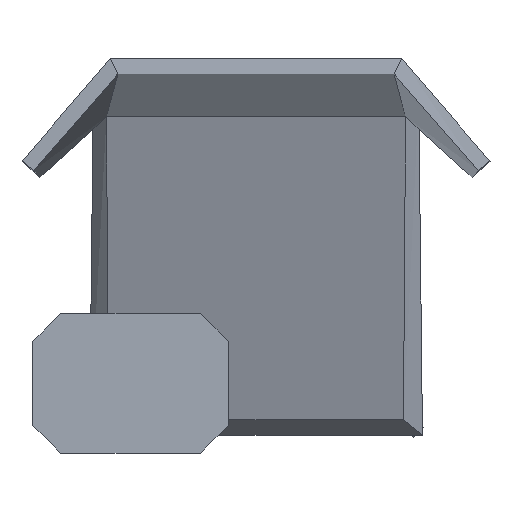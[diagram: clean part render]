
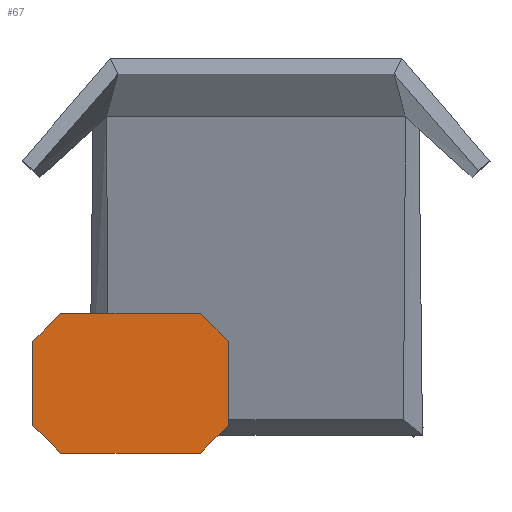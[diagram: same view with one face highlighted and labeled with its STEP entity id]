
A CAD part, top view. The second image highlights one B-rep face of the part: STEP entity #67.
In plain terms, the highlighted planar face has unit normal (0, 0, 1).
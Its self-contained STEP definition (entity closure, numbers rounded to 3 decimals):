
#67=ADVANCED_FACE('',(#199),#1876,.T.);
#199=FACE_OUTER_BOUND('',#331,.T.);
#331=EDGE_LOOP('',(#519,#520,#521,#522,#523,#524,#525,#526));
#519=ORIENTED_EDGE('',*,*,#1049,.T.);
#520=ORIENTED_EDGE('',*,*,#1050,.T.);
#521=ORIENTED_EDGE('',*,*,#1051,.T.);
#522=ORIENTED_EDGE('',*,*,#1052,.T.);
#523=ORIENTED_EDGE('',*,*,#1053,.T.);
#524=ORIENTED_EDGE('',*,*,#1054,.T.);
#525=ORIENTED_EDGE('',*,*,#1055,.T.);
#526=ORIENTED_EDGE('',*,*,#1056,.T.);
#1049=EDGE_CURVE('',#1627,#1626,#1330,.T.);
#1050=EDGE_CURVE('',#1626,#1628,#1331,.T.);
#1051=EDGE_CURVE('',#1628,#1629,#1332,.T.);
#1052=EDGE_CURVE('',#1629,#1630,#1333,.T.);
#1053=EDGE_CURVE('',#1630,#1631,#1334,.T.);
#1054=EDGE_CURVE('',#1631,#1632,#1335,.T.);
#1055=EDGE_CURVE('',#1632,#1633,#1336,.T.);
#1056=EDGE_CURVE('',#1633,#1627,#1337,.T.);
#1330=(
BOUNDED_CURVE()
B_SPLINE_CURVE(2,(#2327,#2328,#2329),.UNSPECIFIED.,.F.,.F.)
B_SPLINE_CURVE_WITH_KNOTS((3,3),(-4699.779,-4621.239),
 .UNSPECIFIED.)
CURVE()
GEOMETRIC_REPRESENTATION_ITEM()
RATIONAL_B_SPLINE_CURVE((1.,0.707,1.))
REPRESENTATION_ITEM('')
);
#1331=(
BOUNDED_CURVE()
B_SPLINE_CURVE(2,(#2330,#2331,#2332),.UNSPECIFIED.,.F.,.F.)
B_SPLINE_CURVE_WITH_KNOTS((3,3),(-4621.239,-4471.239),
 .UNSPECIFIED.)
CURVE()
GEOMETRIC_REPRESENTATION_ITEM()
RATIONAL_B_SPLINE_CURVE((1.,1.,1.))
REPRESENTATION_ITEM('')
);
#1332=(
BOUNDED_CURVE()
B_SPLINE_CURVE(2,(#2333,#2334,#2335),.UNSPECIFIED.,.F.,.F.)
B_SPLINE_CURVE_WITH_KNOTS((3,3),(-4471.239,-4392.699),
 .UNSPECIFIED.)
CURVE()
GEOMETRIC_REPRESENTATION_ITEM()
RATIONAL_B_SPLINE_CURVE((1.,0.707,1.))
REPRESENTATION_ITEM('')
);
#1333=(
BOUNDED_CURVE()
B_SPLINE_CURVE(2,(#2336,#2337,#2338),.UNSPECIFIED.,.F.,.F.)
B_SPLINE_CURVE_WITH_KNOTS((3,3),(-4392.699,-4142.699),
 .UNSPECIFIED.)
CURVE()
GEOMETRIC_REPRESENTATION_ITEM()
RATIONAL_B_SPLINE_CURVE((1.,1.,1.))
REPRESENTATION_ITEM('')
);
#1334=(
BOUNDED_CURVE()
B_SPLINE_CURVE(2,(#2339,#2340,#2341),.UNSPECIFIED.,.F.,.F.)
B_SPLINE_CURVE_WITH_KNOTS((3,3),(-4142.699,-4064.159),
 .UNSPECIFIED.)
CURVE()
GEOMETRIC_REPRESENTATION_ITEM()
RATIONAL_B_SPLINE_CURVE((1.,0.707,1.))
REPRESENTATION_ITEM('')
);
#1335=(
BOUNDED_CURVE()
B_SPLINE_CURVE(2,(#2342,#2343,#2344),.UNSPECIFIED.,.F.,.F.)
B_SPLINE_CURVE_WITH_KNOTS((3,3),(-4064.159,-3914.159),
 .UNSPECIFIED.)
CURVE()
GEOMETRIC_REPRESENTATION_ITEM()
RATIONAL_B_SPLINE_CURVE((1.,1.,1.))
REPRESENTATION_ITEM('')
);
#1336=(
BOUNDED_CURVE()
B_SPLINE_CURVE(2,(#2345,#2346,#2347),.UNSPECIFIED.,.F.,.F.)
B_SPLINE_CURVE_WITH_KNOTS((3,3),(-3914.159,-3835.619),
 .UNSPECIFIED.)
CURVE()
GEOMETRIC_REPRESENTATION_ITEM()
RATIONAL_B_SPLINE_CURVE((1.,0.707,1.))
REPRESENTATION_ITEM('')
);
#1337=(
BOUNDED_CURVE()
B_SPLINE_CURVE(2,(#2348,#2349,#2350),.UNSPECIFIED.,.F.,.F.)
B_SPLINE_CURVE_WITH_KNOTS((3,3),(-3835.619,-3585.619),
 .UNSPECIFIED.)
CURVE()
GEOMETRIC_REPRESENTATION_ITEM()
RATIONAL_B_SPLINE_CURVE((1.,1.,1.))
REPRESENTATION_ITEM('')
);
#1626=VERTEX_POINT('',#2319);
#1627=VERTEX_POINT('',#2320);
#1628=VERTEX_POINT('',#2321);
#1629=VERTEX_POINT('',#2322);
#1630=VERTEX_POINT('',#2323);
#1631=VERTEX_POINT('',#2324);
#1632=VERTEX_POINT('',#2325);
#1633=VERTEX_POINT('',#2326);
#1876=PLANE('',#2004);
#2004=AXIS2_PLACEMENT_3D('',#2318,#2049,$);
#2049=DIRECTION('',(0.,0.,1.));
#2318=CARTESIAN_POINT('',(-5.614,-46.988,606.918));
#2319=CARTESIAN_POINT('',(-399.364,-128.238,606.918));
#2320=CARTESIAN_POINT('',(-349.364,-78.238,606.918));
#2321=CARTESIAN_POINT('',(-399.364,-278.238,606.918));
#2322=CARTESIAN_POINT('',(-349.364,-328.238,606.918));
#2323=CARTESIAN_POINT('',(-99.364,-328.238,606.918));
#2324=CARTESIAN_POINT('',(-49.364,-278.238,606.918));
#2325=CARTESIAN_POINT('',(-49.364,-128.238,606.918));
#2326=CARTESIAN_POINT('',(-99.364,-78.238,606.918));
#2327=CARTESIAN_POINT('',(-349.364,-78.238,606.918));
#2328=CARTESIAN_POINT('',(-399.364,-78.238,606.918));
#2329=CARTESIAN_POINT('',(-399.364,-128.238,606.918));
#2330=CARTESIAN_POINT('',(-399.364,-128.238,606.918));
#2331=CARTESIAN_POINT('',(-399.364,-203.238,606.918));
#2332=CARTESIAN_POINT('',(-399.364,-278.238,606.918));
#2333=CARTESIAN_POINT('',(-399.364,-278.238,606.918));
#2334=CARTESIAN_POINT('',(-399.364,-328.238,606.918));
#2335=CARTESIAN_POINT('',(-349.364,-328.238,606.918));
#2336=CARTESIAN_POINT('',(-349.364,-328.238,606.918));
#2337=CARTESIAN_POINT('',(-224.364,-328.238,606.918));
#2338=CARTESIAN_POINT('',(-99.364,-328.238,606.918));
#2339=CARTESIAN_POINT('',(-99.364,-328.238,606.918));
#2340=CARTESIAN_POINT('',(-49.364,-328.238,606.918));
#2341=CARTESIAN_POINT('',(-49.364,-278.238,606.918));
#2342=CARTESIAN_POINT('',(-49.364,-278.238,606.918));
#2343=CARTESIAN_POINT('',(-49.364,-203.238,606.918));
#2344=CARTESIAN_POINT('',(-49.364,-128.238,606.918));
#2345=CARTESIAN_POINT('',(-49.364,-128.238,606.918));
#2346=CARTESIAN_POINT('',(-49.364,-78.238,606.918));
#2347=CARTESIAN_POINT('',(-99.364,-78.238,606.918));
#2348=CARTESIAN_POINT('',(-99.364,-78.238,606.918));
#2349=CARTESIAN_POINT('',(-224.364,-78.238,606.918));
#2350=CARTESIAN_POINT('',(-349.364,-78.238,606.918));
